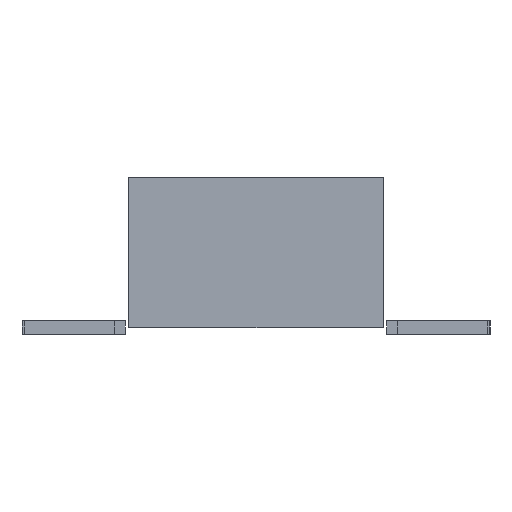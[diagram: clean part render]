
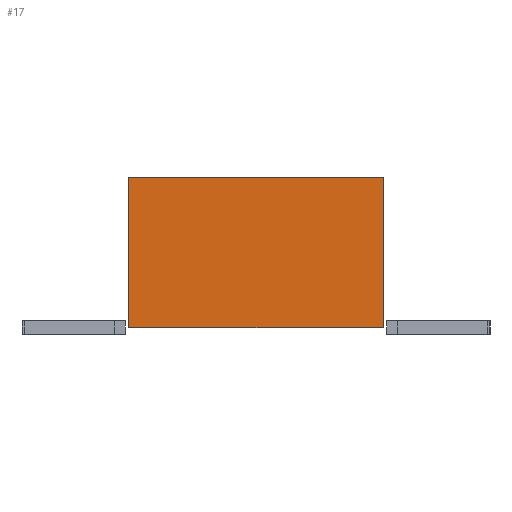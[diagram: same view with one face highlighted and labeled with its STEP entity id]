
A CAD part, left-side view. The second image highlights one B-rep face of the part: STEP entity #17.
In plain terms, the highlighted planar face has unit normal (-1, 0, 0).
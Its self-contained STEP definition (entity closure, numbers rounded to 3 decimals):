
#17 = ADVANCED_FACE('',(#18),#32,.F.);
#18 = FACE_BOUND('',#19,.F.);
#19 = EDGE_LOOP('',(#20,#55,#83,#111));
#20 = ORIENTED_EDGE('',*,*,#21,.F.);
#21 = EDGE_CURVE('',#22,#24,#26,.T.);
#22 = VERTEX_POINT('',#23);
#23 = CARTESIAN_POINT('',(-8.76,-0.925,0.05));
#24 = VERTEX_POINT('',#25);
#25 = CARTESIAN_POINT('',(-8.76,-0.925,1.14));
#26 = SURFACE_CURVE('',#27,(#31,#43),.PCURVE_S1.);
#27 = LINE('',#28,#29);
#28 = CARTESIAN_POINT('',(-8.76,-0.925,0.05));
#29 = VECTOR('',#30,1.);
#30 = DIRECTION('',(0.,0.,1.));
#31 = PCURVE('',#32,#37);
#32 = PLANE('',#33);
#33 = AXIS2_PLACEMENT_3D('',#34,#35,#36);
#34 = CARTESIAN_POINT('',(-8.76,-0.925,0.05));
#35 = DIRECTION('',(1.,0.,-0.));
#36 = DIRECTION('',(0.,0.,1.));
#37 = DEFINITIONAL_REPRESENTATION('',(#38),#42);
#38 = LINE('',#39,#40);
#39 = CARTESIAN_POINT('',(0.,0.));
#40 = VECTOR('',#41,1.);
#41 = DIRECTION('',(1.,0.));
#42 = ( GEOMETRIC_REPRESENTATION_CONTEXT(2) 
PARAMETRIC_REPRESENTATION_CONTEXT() REPRESENTATION_CONTEXT('2D SPACE',''
  ) );
#43 = PCURVE('',#44,#49);
#44 = PLANE('',#45);
#45 = AXIS2_PLACEMENT_3D('',#46,#47,#48);
#46 = CARTESIAN_POINT('',(-8.76,-0.925,0.05));
#47 = DIRECTION('',(-0.,1.,0.));
#48 = DIRECTION('',(0.,0.,1.));
#49 = DEFINITIONAL_REPRESENTATION('',(#50),#54);
#50 = LINE('',#51,#52);
#51 = CARTESIAN_POINT('',(0.,0.));
#52 = VECTOR('',#53,1.);
#53 = DIRECTION('',(1.,0.));
#54 = ( GEOMETRIC_REPRESENTATION_CONTEXT(2) 
PARAMETRIC_REPRESENTATION_CONTEXT() REPRESENTATION_CONTEXT('2D SPACE',''
  ) );
#55 = ORIENTED_EDGE('',*,*,#56,.T.);
#56 = EDGE_CURVE('',#22,#57,#59,.T.);
#57 = VERTEX_POINT('',#58);
#58 = CARTESIAN_POINT('',(-8.76,0.925,0.05));
#59 = SURFACE_CURVE('',#60,(#64,#71),.PCURVE_S1.);
#60 = LINE('',#61,#62);
#61 = CARTESIAN_POINT('',(-8.76,-0.925,0.05));
#62 = VECTOR('',#63,1.);
#63 = DIRECTION('',(-0.,1.,0.));
#64 = PCURVE('',#32,#65);
#65 = DEFINITIONAL_REPRESENTATION('',(#66),#70);
#66 = LINE('',#67,#68);
#67 = CARTESIAN_POINT('',(0.,0.));
#68 = VECTOR('',#69,1.);
#69 = DIRECTION('',(0.,-1.));
#70 = ( GEOMETRIC_REPRESENTATION_CONTEXT(2) 
PARAMETRIC_REPRESENTATION_CONTEXT() REPRESENTATION_CONTEXT('2D SPACE',''
  ) );
#71 = PCURVE('',#72,#77);
#72 = PLANE('',#73);
#73 = AXIS2_PLACEMENT_3D('',#74,#75,#76);
#74 = CARTESIAN_POINT('',(-8.76,-0.925,0.05));
#75 = DIRECTION('',(0.,0.,1.));
#76 = DIRECTION('',(1.,0.,-0.));
#77 = DEFINITIONAL_REPRESENTATION('',(#78),#82);
#78 = LINE('',#79,#80);
#79 = CARTESIAN_POINT('',(0.,0.));
#80 = VECTOR('',#81,1.);
#81 = DIRECTION('',(0.,1.));
#82 = ( GEOMETRIC_REPRESENTATION_CONTEXT(2) 
PARAMETRIC_REPRESENTATION_CONTEXT() REPRESENTATION_CONTEXT('2D SPACE',''
  ) );
#83 = ORIENTED_EDGE('',*,*,#84,.T.);
#84 = EDGE_CURVE('',#57,#85,#87,.T.);
#85 = VERTEX_POINT('',#86);
#86 = CARTESIAN_POINT('',(-8.76,0.925,1.14));
#87 = SURFACE_CURVE('',#88,(#92,#99),.PCURVE_S1.);
#88 = LINE('',#89,#90);
#89 = CARTESIAN_POINT('',(-8.76,0.925,0.05));
#90 = VECTOR('',#91,1.);
#91 = DIRECTION('',(0.,0.,1.));
#92 = PCURVE('',#32,#93);
#93 = DEFINITIONAL_REPRESENTATION('',(#94),#98);
#94 = LINE('',#95,#96);
#95 = CARTESIAN_POINT('',(0.,-1.85));
#96 = VECTOR('',#97,1.);
#97 = DIRECTION('',(1.,0.));
#98 = ( GEOMETRIC_REPRESENTATION_CONTEXT(2) 
PARAMETRIC_REPRESENTATION_CONTEXT() REPRESENTATION_CONTEXT('2D SPACE',''
  ) );
#99 = PCURVE('',#100,#105);
#100 = PLANE('',#101);
#101 = AXIS2_PLACEMENT_3D('',#102,#103,#104);
#102 = CARTESIAN_POINT('',(-8.76,0.925,0.05));
#103 = DIRECTION('',(-0.,1.,0.));
#104 = DIRECTION('',(0.,0.,1.));
#105 = DEFINITIONAL_REPRESENTATION('',(#106),#110);
#106 = LINE('',#107,#108);
#107 = CARTESIAN_POINT('',(0.,0.));
#108 = VECTOR('',#109,1.);
#109 = DIRECTION('',(1.,0.));
#110 = ( GEOMETRIC_REPRESENTATION_CONTEXT(2) 
PARAMETRIC_REPRESENTATION_CONTEXT() REPRESENTATION_CONTEXT('2D SPACE',''
  ) );
#111 = ORIENTED_EDGE('',*,*,#112,.F.);
#112 = EDGE_CURVE('',#24,#85,#113,.T.);
#113 = SURFACE_CURVE('',#114,(#118,#125),.PCURVE_S1.);
#114 = LINE('',#115,#116);
#115 = CARTESIAN_POINT('',(-8.76,-0.925,1.14));
#116 = VECTOR('',#117,1.);
#117 = DIRECTION('',(-0.,1.,0.));
#118 = PCURVE('',#32,#119);
#119 = DEFINITIONAL_REPRESENTATION('',(#120),#124);
#120 = LINE('',#121,#122);
#121 = CARTESIAN_POINT('',(1.09,0.));
#122 = VECTOR('',#123,1.);
#123 = DIRECTION('',(0.,-1.));
#124 = ( GEOMETRIC_REPRESENTATION_CONTEXT(2) 
PARAMETRIC_REPRESENTATION_CONTEXT() REPRESENTATION_CONTEXT('2D SPACE',''
  ) );
#125 = PCURVE('',#126,#131);
#126 = PLANE('',#127);
#127 = AXIS2_PLACEMENT_3D('',#128,#129,#130);
#128 = CARTESIAN_POINT('',(-8.76,-0.925,1.14));
#129 = DIRECTION('',(0.,0.,1.));
#130 = DIRECTION('',(1.,0.,-0.));
#131 = DEFINITIONAL_REPRESENTATION('',(#132),#136);
#132 = LINE('',#133,#134);
#133 = CARTESIAN_POINT('',(0.,0.));
#134 = VECTOR('',#135,1.);
#135 = DIRECTION('',(0.,1.));
#136 = ( GEOMETRIC_REPRESENTATION_CONTEXT(2) 
PARAMETRIC_REPRESENTATION_CONTEXT() REPRESENTATION_CONTEXT('2D SPACE',''
  ) );
